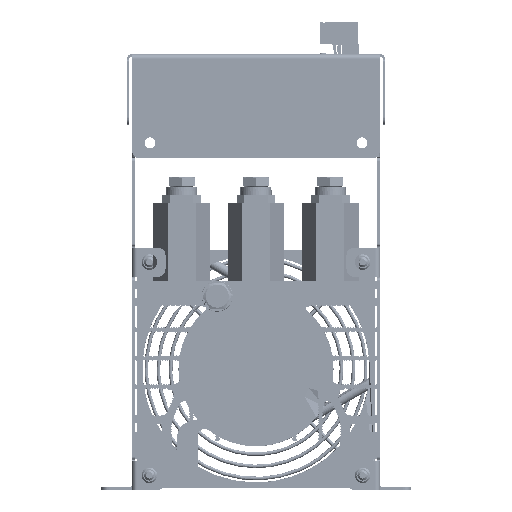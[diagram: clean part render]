
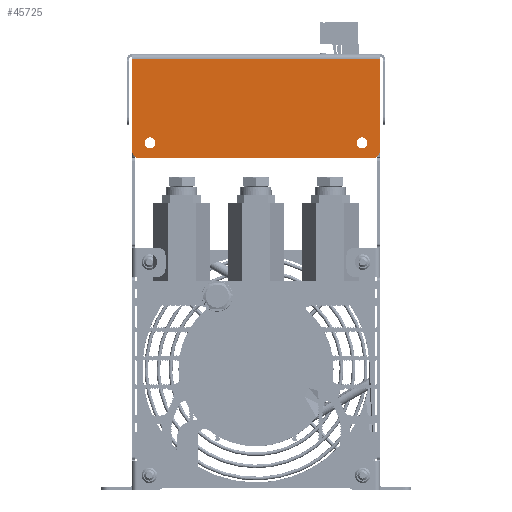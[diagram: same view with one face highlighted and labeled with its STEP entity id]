
A CAD part, front view. The second image highlights one B-rep face of the part: STEP entity #45725.
In plain terms, the highlighted planar face has unit normal (0, -1, 0).
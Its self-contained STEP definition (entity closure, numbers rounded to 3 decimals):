
#45725=ADVANCED_FACE('',(#101507,#101509,#101511),#101513,.F.);
#101507=FACE_BOUND('',#101508,.T.);
#101508=EDGE_LOOP('',(#147644,#147645,#147646,#147647,#147648,#147649));
#101509=FACE_BOUND('',#101510,.T.);
#101510=EDGE_LOOP('',(#147650));
#101511=FACE_BOUND('',#101512,.T.);
#101512=EDGE_LOOP('',(#147651));
#101513=PLANE('',#101514);
#101514=AXIS2_PLACEMENT_3D('',#101515,#101516,#101517);
#101515=CARTESIAN_POINT('',(0.,-97.,217.299));
#101516=DIRECTION('',(0.,1.,0.));
#101517=DIRECTION('',(1.,0.,0.));
#147644=ORIENTED_EDGE('',*,*,#170672,.F.);
#147645=ORIENTED_EDGE('',*,*,#170679,.F.);
#147646=ORIENTED_EDGE('',*,*,#170677,.F.);
#147647=ORIENTED_EDGE('',*,*,#170676,.F.);
#147648=ORIENTED_EDGE('',*,*,#169817,.T.);
#147649=ORIENTED_EDGE('',*,*,#170674,.F.);
#147650=ORIENTED_EDGE('',*,*,#170680,.T.);
#147651=ORIENTED_EDGE('',*,*,#170681,.T.);
#169817=EDGE_CURVE('',#204022,#204018,#204100,.T.);
#170672=EDGE_CURVE('',#205380,#205382,#205383,.F.);
#170674=EDGE_CURVE('',#205382,#204018,#205385,.T.);
#170676=EDGE_CURVE('',#204022,#205386,#205388,.T.);
#170677=EDGE_CURVE('',#205386,#205389,#205390,.F.);
#170679=EDGE_CURVE('',#205389,#205380,#205392,.T.);
#170680=EDGE_CURVE('',#205393,#205393,#205394,.F.);
#170681=EDGE_CURVE('',#205395,#205395,#205396,.F.);
#204018=VERTEX_POINT('',#293414);
#204022=VERTEX_POINT('',#293425);
#204100=LINE('',#293634,#293635);
#205380=VERTEX_POINT('',#296971);
#205382=VERTEX_POINT('',#296975);
#205383=CIRCLE('',#296976,3.);
#205385=LINE('',#296983,#296984);
#205386=VERTEX_POINT('',#296986);
#205388=LINE('',#296990,#296991);
#205389=VERTEX_POINT('',#296993);
#205390=CIRCLE('',#296994,3.);
#205392=LINE('',#297001,#297002);
#205393=VERTEX_POINT('',#297004);
#205394=CIRCLE('',#297005,2.1);
#205395=VERTEX_POINT('',#297009);
#205396=CIRCLE('',#297010,2.1);
#293414=CARTESIAN_POINT('',(-48.,-97.,120.1));
#293425=CARTESIAN_POINT('',(48.,-97.,120.1));
#293634=CARTESIAN_POINT('',(48.,-97.,120.1));
#293635=VECTOR('',#293636,1.);
#293636=DIRECTION('',(-1.,0.,0.));
#296971=CARTESIAN_POINT('',(-45.,-97.,81.8));
#296975=CARTESIAN_POINT('',(-48.,-97.,84.8));
#296976=AXIS2_PLACEMENT_3D('',#296977,#296978,#296979);
#296977=CARTESIAN_POINT('',(-45.,-97.,84.8));
#296978=DIRECTION('',(0.,-1.,0.));
#296979=DIRECTION('',(-1.,0.,0.));
#296983=CARTESIAN_POINT('',(-48.,-97.,84.8));
#296984=VECTOR('',#296985,1.);
#296985=DIRECTION('',(0.,0.,1.));
#296986=CARTESIAN_POINT('',(48.,-97.,84.8));
#296990=CARTESIAN_POINT('',(48.,-97.,120.1));
#296991=VECTOR('',#296992,1.);
#296992=DIRECTION('',(0.,0.,-1.));
#296993=CARTESIAN_POINT('',(45.,-97.,81.8));
#296994=AXIS2_PLACEMENT_3D('',#296995,#296996,#296997);
#296995=CARTESIAN_POINT('',(45.,-97.,84.8));
#296996=DIRECTION('',(0.,-1.,0.));
#296997=DIRECTION('',(0.,0.,-1.));
#297001=CARTESIAN_POINT('',(45.,-97.,81.8));
#297002=VECTOR('',#297003,1.);
#297003=DIRECTION('',(-1.,0.,0.));
#297004=CARTESIAN_POINT('',(-38.9,-97.,87.8));
#297005=AXIS2_PLACEMENT_3D('',#297006,#297007,#297008);
#297006=CARTESIAN_POINT('',(-41.,-97.,87.8));
#297007=DIRECTION('',(0.,-1.,0.));
#297008=DIRECTION('',(1.,0.,0.));
#297009=CARTESIAN_POINT('',(43.1,-97.,87.8));
#297010=AXIS2_PLACEMENT_3D('',#297011,#297012,#297013);
#297011=CARTESIAN_POINT('',(41.,-97.,87.8));
#297012=DIRECTION('',(0.,-1.,0.));
#297013=DIRECTION('',(1.,0.,0.));
